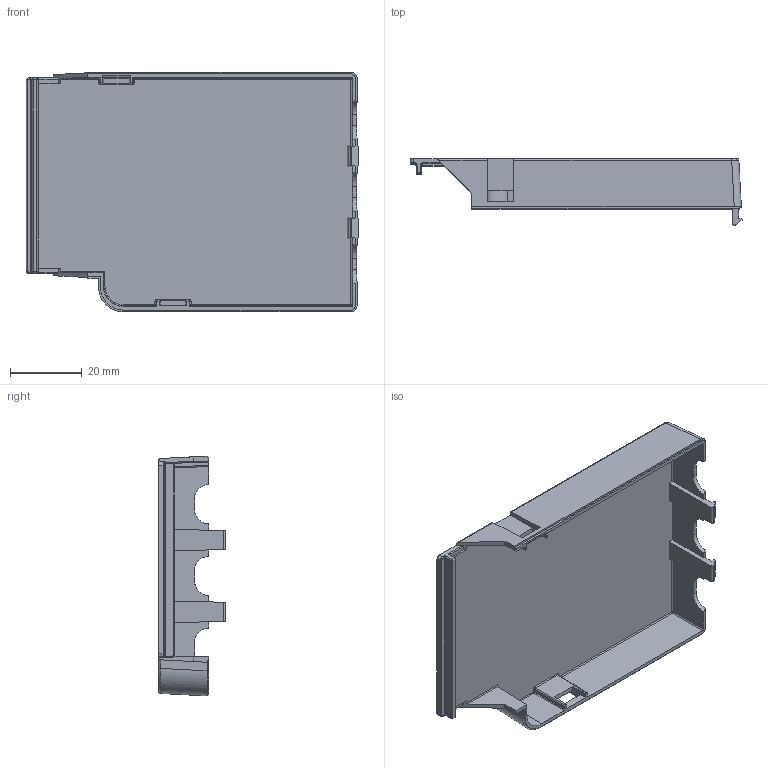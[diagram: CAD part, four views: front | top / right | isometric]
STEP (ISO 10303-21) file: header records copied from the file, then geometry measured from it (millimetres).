
FILE_DESCRIPTION (( 'STEP AP203' ), '1' );
FILE_NAME ('D007807.STEP', '2018-04-04T07:16:39', ( '' ), ( '' ), 'SwSTEP 2.0', 'SolidWorks 2014', '' );
FILE_SCHEMA (( 'CONFIG_CONTROL_DESIGN' ));
Length unit declared in the file: millimetre
Products named in the file (1): D007807
Bounding box: 92.75 x 18.6 x 67 mm (x, y, z)
Volume: 15197.4 mm3; surface area: 17993.1 mm2
Topology: 1 solids, 1 shells, 224 faces, 601 edges, 379 vertices
Faces by surface type: plane 108, cylinder 88, bspline 24, sphere 4
Entity records: 8006 total; most frequent: CARTESIAN_POINT 2693, ORIENTED_EDGE 1202, DIRECTION 964, EDGE_CURVE 601, VECTOR 394, LINE 394, VERTEX_POINT 379, AXIS2_PLACEMENT_3D 285
